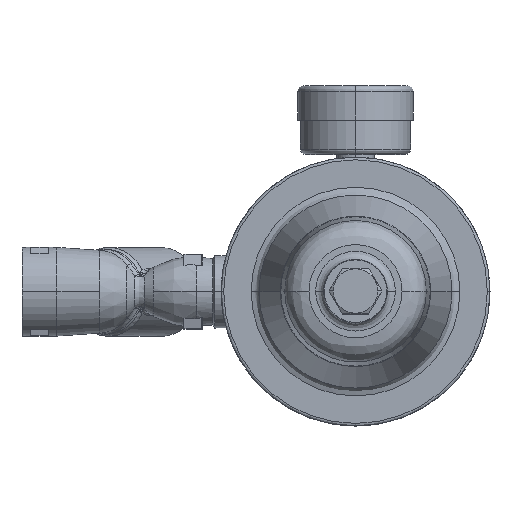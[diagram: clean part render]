
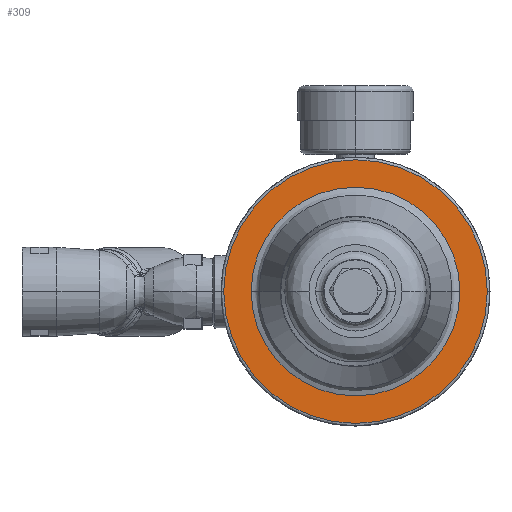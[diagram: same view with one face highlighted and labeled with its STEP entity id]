
A CAD part, top view. The second image highlights one B-rep face of the part: STEP entity #309.
In plain terms, the highlighted planar face has unit normal (0, 0, 1).
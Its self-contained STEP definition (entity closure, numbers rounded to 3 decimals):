
#309=ADVANCED_FACE('',(#2505,#2506),#2504,.T.);
#2504=PLANE('',#7394);
#2505=FACE_OUTER_BOUND('',#7395,.T.);
#2506=FACE_BOUND('',#7396,.T.);
#7391=CARTESIAN_POINT('',(-108.,-94.87,39.));
#7392=DIRECTION('',(0.,0.,1.));
#7393=DIRECTION('',(1.,0.,0.));
#7394=AXIS2_PLACEMENT_3D('',#7391,#7392,#7393);
#7395=EDGE_LOOP('',(#11289,#11290));
#7396=EDGE_LOOP('',(#11291,#11292));
#11289=ORIENTED_EDGE('',*,*,#12878,.T.);
#11290=ORIENTED_EDGE('',*,*,#12879,.T.);
#11291=ORIENTED_EDGE('',*,*,#12880,.T.);
#11292=ORIENTED_EDGE('',*,*,#12881,.T.);
#12878=EDGE_CURVE('',#16969,#16970,#16971,.T.);
#12879=EDGE_CURVE('',#16970,#16969,#16977,.T.);
#12880=EDGE_CURVE('',#16983,#16984,#16985,.T.);
#12881=EDGE_CURVE('',#16984,#16983,#16991,.T.);
#16969=VERTEX_POINT('',#23403);
#16970=VERTEX_POINT('',#23404);
#16971=CIRCLE('',#23408,49.);
#16977=CIRCLE('',#23412,49.);
#16983=VERTEX_POINT('',#23413);
#16984=VERTEX_POINT('',#23414);
#16985=CIRCLE('',#23418,38.802);
#16991=CIRCLE('',#23422,38.802);
#23403=CARTESIAN_POINT('',(49.,0.,39.));
#23404=CARTESIAN_POINT('',(-49.,0.,39.));
#23405=CARTESIAN_POINT('',(0.,0.,39.));
#23406=DIRECTION('',(0.,0.,1.));
#23407=DIRECTION('',(1.,0.,0.));
#23408=AXIS2_PLACEMENT_3D('',#23405,#23406,#23407);
#23409=CARTESIAN_POINT('',(0.,0.,39.));
#23410=DIRECTION('',(0.,0.,1.));
#23411=DIRECTION('',(1.,0.,0.));
#23412=AXIS2_PLACEMENT_3D('',#23409,#23410,#23411);
#23413=CARTESIAN_POINT('',(38.802,0.,39.));
#23414=CARTESIAN_POINT('',(-38.802,0.,39.));
#23415=CARTESIAN_POINT('',(0.,0.,39.));
#23416=DIRECTION('',(0.,0.,-1.));
#23417=DIRECTION('',(1.,0.,0.));
#23418=AXIS2_PLACEMENT_3D('',#23415,#23416,#23417);
#23419=CARTESIAN_POINT('',(0.,0.,39.));
#23420=DIRECTION('',(0.,0.,-1.));
#23421=DIRECTION('',(1.,0.,0.));
#23422=AXIS2_PLACEMENT_3D('',#23419,#23420,#23421);
